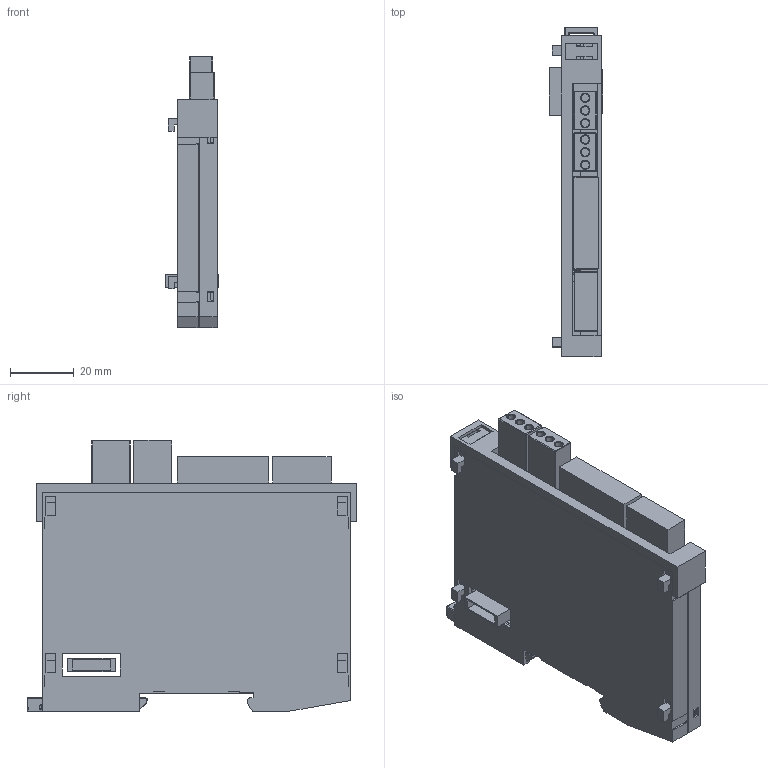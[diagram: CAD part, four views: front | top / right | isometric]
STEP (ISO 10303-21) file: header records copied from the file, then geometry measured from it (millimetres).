
FILE_DESCRIPTION (( 'STEP AP214' ), '1' );
FILE_NAME ('SR011 support.STEP', '2019-04-26T07:22:01', ( 'Windows-Benutzer' ), ( '' ), 'SwSTEP 2.0', 'SolidWorks 2018', '' );
FILE_SCHEMA (( 'AUTOMOTIVE_DESIGN' ));
Length unit declared in the file: millimetre
Products named in the file (14): Dummy_______________8pol Buchse; S-Dias Schale links_f Suport; Dummy____________fmc_1.5 5pol 1952296; Dummy_SC-SMT_3_81_3_90G1_5SN_SW_1862970000; Dummy_4080225346 Erni Stift; Dummy_4110262152 5pol Buchse; SR011 support; Schieber_f Suport; ----------- 3pol. f黵 Motoren; Dummy_4110260022 8pol.Federkraftstecker 1reih. 1952322; LP_SR011; S-Dias Schale rechts_f Suport; Dummy_4080225345 Erni Buchse; S-Dias Rasthaken 20130313
Assembly tree (15 placements, depth 3):
  SR011 support
    S-Dias Schale links_f Suport
    S-Dias Schale rechts_f Suport
    Schieber_f Suport
    S-Dias Rasthaken 20130313
    LP_SR011
      Dummy____________fmc_1.5 5pol 1952296
      Dummy_4110262152 5pol Buchse
      Dummy_4080225346 Erni Stift
      Dummy_4080225345 Erni Buchse
      Dummy_______________8pol Buchse
      Dummy_4110260022 8pol.Federkraftstecker 1reih. 1952322
      Dummy_SC-SMT_3_81_3_90G1_5SN_SW_1862970000  x2
    ----------- 3pol. f黵 Motoren  x2
Bounding box: 16.8 x 103.61 x 85.25 mm (x, y, z)
Volume: 33901.1 mm3; surface area: 45758 mm2
Topology: 14 solids, 14 shells, 812 faces, 2300 edges, 1514 vertices
Faces by surface type: plane 558, cylinder 132, bspline 72, cone 40, torus 10
Entity records: 27156 total; most frequent: CARTESIAN_POINT 7250, ORIENTED_EDGE 4426, DIRECTION 3450, EDGE_CURVE 2213, VECTOR 1578, LINE 1578, VERTEX_POINT 1468, AXIS2_PLACEMENT_3D 936
